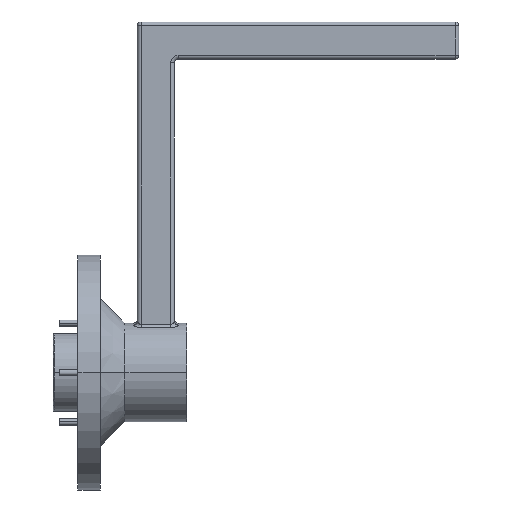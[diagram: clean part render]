
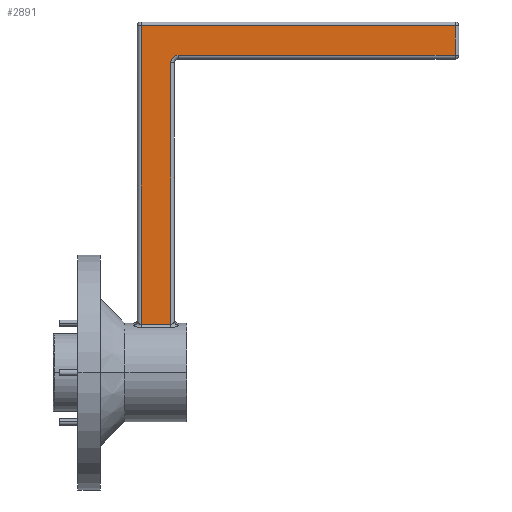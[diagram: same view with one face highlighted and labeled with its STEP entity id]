
A CAD part, left-side view. The second image highlights one B-rep face of the part: STEP entity #2891.
In plain terms, the highlighted planar face has unit normal (-1, 0, 0).
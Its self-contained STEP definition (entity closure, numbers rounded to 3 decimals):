
#165=CARTESIAN_POINT('Vertex',(-15.,-287.,256.5)) ;
#250=CARTESIAN_POINT('Vertex',(-15.,-63.,256.5)) ;
#253=CARTESIAN_POINT('Axis2P3D Location',(-15.,-63.,250.5)) ;
#257=CARTESIAN_POINT('Vertex',(-15.,-57.,250.5)) ;
#294=CARTESIAN_POINT('Line Origine',(-15.,-160.,256.5)) ;
#417=CARTESIAN_POINT('Vertex',(-15.,-287.,280.5)) ;
#436=CARTESIAN_POINT('Line Origine',(-15.,-287.,158.79)) ;
#757=CARTESIAN_POINT('Vertex',(-15.,-33.,39.051)) ;
#873=CARTESIAN_POINT('Vertex',(-15.,-33.,280.5)) ;
#892=CARTESIAN_POINT('Line Origine',(-15.,-33.,160.29)) ;
#1324=CARTESIAN_POINT('Vertex',(-15.,-57.,39.051)) ;
#1363=CARTESIAN_POINT('Line Origine',(-15.,-160.,39.051)) ;
#1419=CARTESIAN_POINT('Line Origine',(-15.,-57.,158.79)) ;
#2865=CARTESIAN_POINT('Line Origine',(-15.,-160.,280.5)) ;
#2877=CARTESIAN_POINT('Axis2P3D Location',(-15.,-60.,0.)) ;
#254=DIRECTION('Axis2P3D Direction',(1.,0.,-0.)) ;
#295=DIRECTION('Vector Direction',(0.,-1.,0.)) ;
#437=DIRECTION('Vector Direction',(0.,0.,-1.)) ;
#893=DIRECTION('Vector Direction',(0.,0.,1.)) ;
#1364=DIRECTION('Vector Direction',(0.,1.,0.)) ;
#1420=DIRECTION('Vector Direction',(0.,0.,1.)) ;
#2866=DIRECTION('Vector Direction',(0.,1.,0.)) ;
#2878=DIRECTION('Axis2P3D Direction',(1.,0.,0.)) ;
#2879=DIRECTION('Axis2P3D XDirection',(0.,1.,0.)) ;
#255=AXIS2_PLACEMENT_3D('Circle Axis2P3D',#253,#254,$) ;
#2880=AXIS2_PLACEMENT_3D('Plane Axis2P3D',#2877,#2878,#2879) ;
#2883=ORIENTED_EDGE('',*,*,#1367,.F.) ;
#2884=ORIENTED_EDGE('',*,*,#1423,.F.) ;
#2885=ORIENTED_EDGE('',*,*,#259,.F.) ;
#2886=ORIENTED_EDGE('',*,*,#298,.F.) ;
#2887=ORIENTED_EDGE('',*,*,#440,.F.) ;
#2888=ORIENTED_EDGE('',*,*,#2869,.F.) ;
#2889=ORIENTED_EDGE('',*,*,#896,.T.) ;
#296=VECTOR('Line Direction',#295,1.) ;
#438=VECTOR('Line Direction',#437,1.) ;
#894=VECTOR('Line Direction',#893,1.) ;
#1365=VECTOR('Line Direction',#1364,1.) ;
#1421=VECTOR('Line Direction',#1420,1.) ;
#2867=VECTOR('Line Direction',#2866,1.) ;
#2891=ADVANCED_FACE('PartBody',(#2890),#2881,.F.) ;
#256=CIRCLE('generated circle',#255,6.) ;
#259=EDGE_CURVE('',#251,#258,#256,.F.) ;
#298=EDGE_CURVE('',#166,#251,#297,.F.) ;
#440=EDGE_CURVE('',#418,#166,#439,.T.) ;
#896=EDGE_CURVE('',#874,#758,#895,.F.) ;
#1367=EDGE_CURVE('',#1325,#758,#1366,.T.) ;
#1423=EDGE_CURVE('',#258,#1325,#1422,.F.) ;
#2869=EDGE_CURVE('',#874,#418,#2868,.F.) ;
#2882=EDGE_LOOP('',(#2883,#2884,#2885,#2886,#2887,#2888,#2889)) ;
#2890=FACE_OUTER_BOUND('',#2882,.T.) ;
#297=LINE('Line',#294,#296) ;
#439=LINE('Line',#436,#438) ;
#895=LINE('Line',#892,#894) ;
#1366=LINE('Line',#1363,#1365) ;
#1422=LINE('Line',#1419,#1421) ;
#2868=LINE('Line',#2865,#2867) ;
#2881=PLANE('',#2880) ;
#166=VERTEX_POINT('',#165) ;
#251=VERTEX_POINT('',#250) ;
#258=VERTEX_POINT('',#257) ;
#418=VERTEX_POINT('',#417) ;
#758=VERTEX_POINT('',#757) ;
#874=VERTEX_POINT('',#873) ;
#1325=VERTEX_POINT('',#1324) ;
